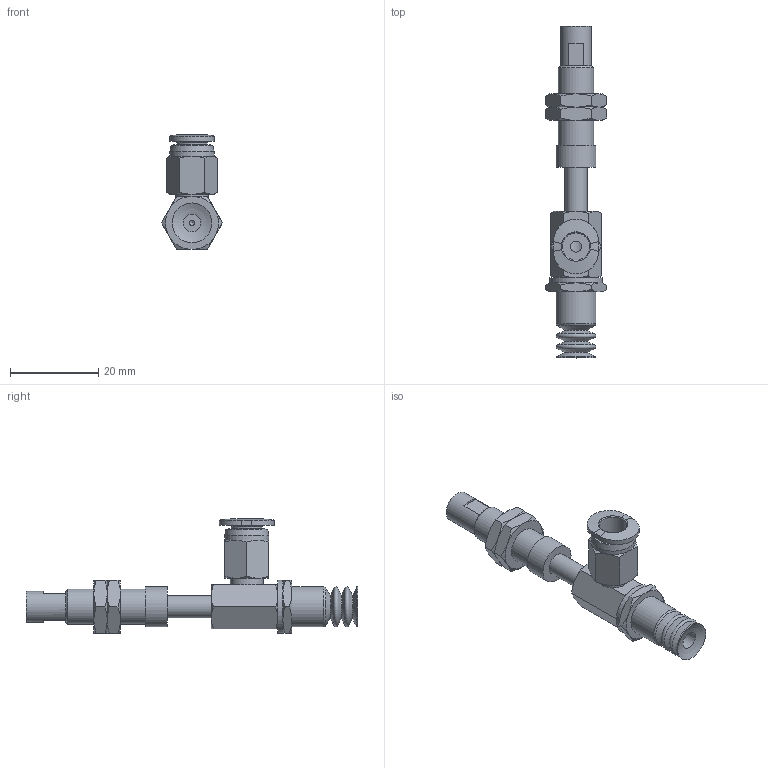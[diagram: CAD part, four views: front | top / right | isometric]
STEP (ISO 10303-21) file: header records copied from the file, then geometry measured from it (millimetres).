
FILE_DESCRIPTION(('STEP AP203'),'1');
FILE_NAME('-O.stp','2025-04-03T06:30:04',(' '),(' '),'Spatial InterOp 3D',' ',' ');
FILE_SCHEMA(('CONFIG_CONTROL_DESIGN'));
Length unit declared in the file: millimetre
Products named in the file (8): BNABPCYS-10-10-※-O; Adapter_napc-10-T; Connector_s-10-10; Nut napc_s-10-10; NAPCTS-10-10-FBODY; NAPCTS-10-10-MBODY; BPCG-10-※; PC-C_06-M5
Assembly tree (8 placements, depth 2):
  BNABPCYS-10-10-※-O
    Adapter_napc-10-T
    Connector_s-10-10
    Nut napc_s-10-10  x2
    NAPCTS-10-10-FBODY
    NAPCTS-10-10-MBODY
    BPCG-10-※
    PC-C_06-M5
Bounding box: 13.86 x 75.2 x 25.98 mm (x, y, z)
Volume: 4480.4 mm3; surface area: 6014.6 mm2
Topology: 7 solids, 10 shells, 210 faces, 431 edges, 255 vertices
Faces by surface type: cone 85, plane 76, cylinder 30, torus 10, bspline 4, revolution 3, sphere 2
Full cylindrical faces by diameter (mm): 1.25 x1, 4 x3, 4.134 x3, 5 x9, 7 x2, 7.188 x2, 7.4 x1, 8 x1, 8.2 x1, 9 x3, 10 x1, 12 x1
Entity records: 5536 total; most frequent: CARTESIAN_POINT 1616, DIRECTION 733, ORIENTED_EDGE 626, AXIS2_PLACEMENT_3D 333, EDGE_CURVE 315, EDGE_LOOP 276, VERTEX_POINT 222, FACE_OUTER_BOUND 166
